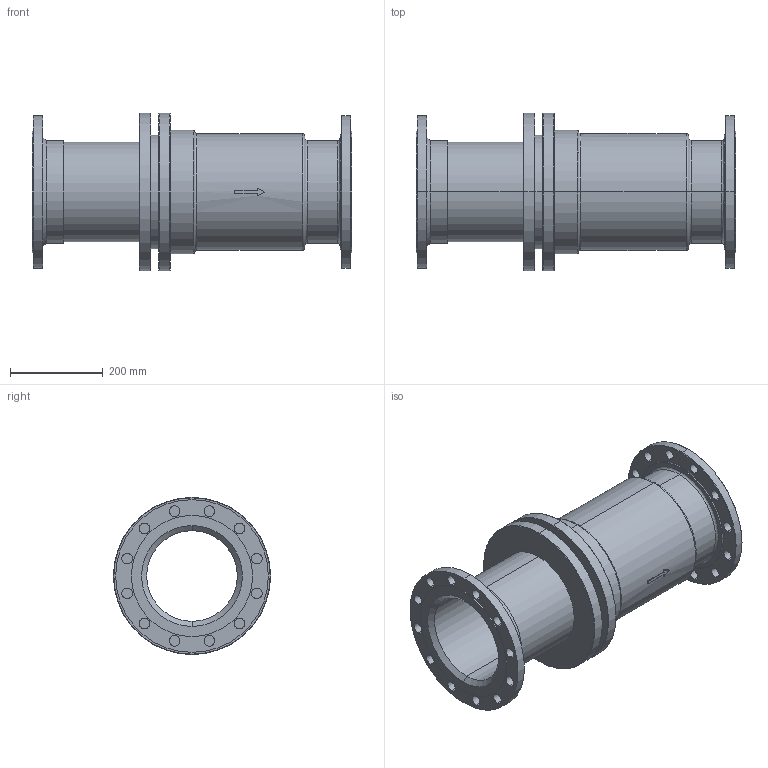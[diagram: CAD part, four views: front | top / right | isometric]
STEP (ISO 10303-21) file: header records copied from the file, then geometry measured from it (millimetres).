
FILE_DESCRIPTION( (''), '2;1');
FILE_NAME ('PC1027.9516.ES-10-200 200A_31920.stp','2025-07-30T15:04:40',(''),(''),'spGate 20.6.3 (****-****-****-****)','','');
FILE_SCHEMA (('AUTOMOTIVE_DESIGN'));
Length unit declared in the file: millimetre
Bounding box: 690 x 340 x 340 mm (x, y, z)
Volume: 13318275.6 mm3; surface area: 1366464.4 mm2
Topology: 1 solids, 1 shells, 139 faces, 340 edges, 218 vertices
Faces by surface type: cylinder 78, plane 31, bspline 30
Entity records: 7217 total; most frequent: CARTESIAN_POINT 1279, ORIENTED_EDGE 680, DIRECTION 642, COLOUR_RGB 480, PRESENTATION_STYLE_ASSIGNMENT 480, STYLED_ITEM 480, EDGE_CURVE 340, DRAUGHTING_PRE_DEFINED_CURVE_FONT 340
